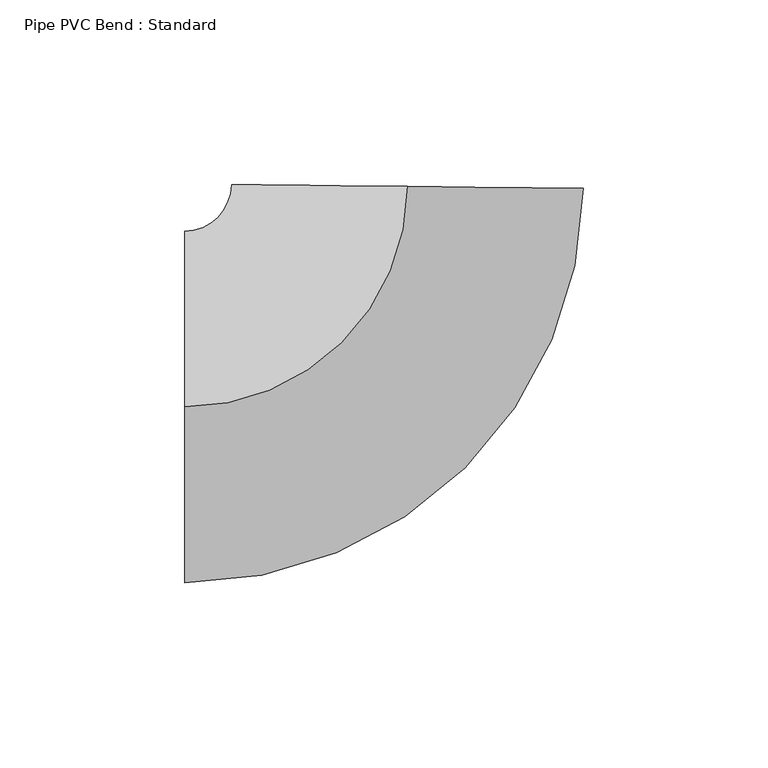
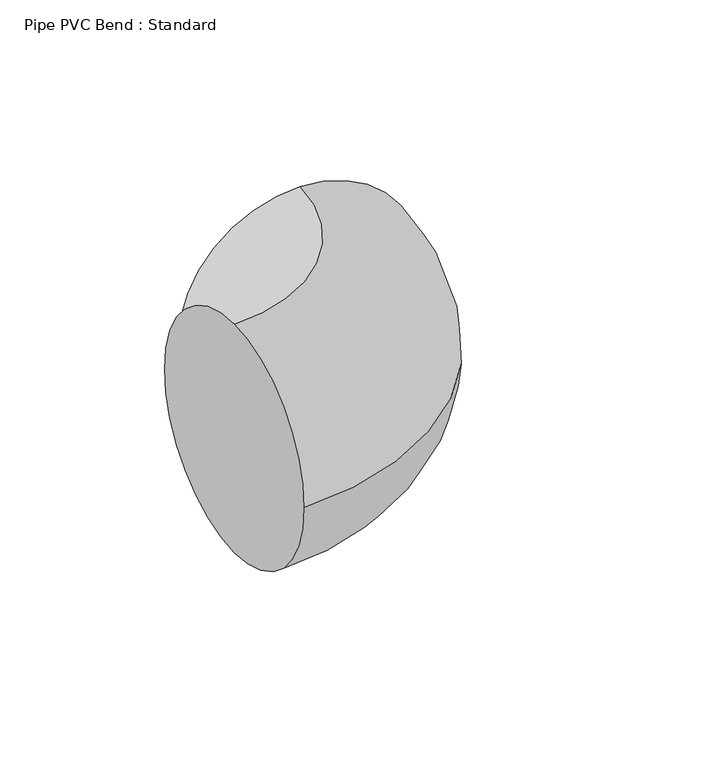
"""IFC4 building model written with IfcOpenShell, lengths in millimetres: pipe fitting geometry, Pipe PVC Bend : Standard."""

from ifc_helpers import new_model, si_unit, point, frame, origin, place, context, project, spatial, circle_curve, ellipse_curve, trimmed, source, transform, mapped, element, save
from ifc_brep_helpers import plane_surface, revolved_surface, advanced_brep


def pipe_pvc_bend_standard_a092cd9d(model_context):
    return source(origin(), model_context, "Body", "AdvancedBrep", [
        advanced_brep(
        [(-59.6998873, 0.0, 47.625), (-59.6998873, 47.625, 0.0), (-59.6998873, 0.0, -47.625), (-59.6998873, -47.625, 0.0), (0.6218401, 59.6966487, 47.625), (48.2442565, 59.2005818, 0.0), (0.6218401, 59.6966487, -47.625), (-47.0005763, 60.1927155, 0.0)],
        [
            (0, 1, circle_curve(frame((-59.6998873, 0.0, 0.0), z_axis=(-1.0, 0.0, 0.0), x_axis=(0.0, 1.0, 0.0)), 47.625)),
            (1, 2, circle_curve(frame((-59.6998873, 0.0, 0.0), z_axis=(-1.0, 0.0, 0.0), x_axis=(0.0, 1.0, 0.0)), 47.625)),
            (2, 3, circle_curve(frame((-59.6998873, 0.0, 0.0), z_axis=(-1.0, 0.0, 0.0), x_axis=(0.0, 1.0, 0.0)), 47.625)),
            (3, 0, circle_curve(frame((-59.6998873, 0.0, 0.0), z_axis=(-1.0, 0.0, 0.0), x_axis=(0.0, 1.0, 0.0)), 47.625)),
            (4, 5, circle_curve(frame((0.6218401, 59.6966487, 0.0), z_axis=(0.010416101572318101, 0.9999457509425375, 0.0), x_axis=(-0.9999457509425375, 0.010416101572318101, 0.0)), 47.625)),
            (5, 6, circle_curve(frame((0.6218401, 59.6966487, 0.0), z_axis=(0.010416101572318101, 0.9999457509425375, 0.0), x_axis=(-0.9999457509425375, 0.010416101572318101, 0.0)), 47.625)),
            (6, 7, circle_curve(frame((0.6218401, 59.6966487, 0.0), z_axis=(0.010416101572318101, 0.9999457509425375, 0.0), x_axis=(-0.9999457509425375, 0.010416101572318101, 0.0)), 47.625)),
            (7, 4, circle_curve(frame((0.6218401, 59.6966487, 0.0), z_axis=(0.010416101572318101, 0.9999457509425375, 0.0), x_axis=(-0.9999457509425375, 0.010416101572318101, 0.0)), 47.625)),
            (7, 1, circle_curve(frame((-59.6998873, 60.325, 0.0), z_axis=(0.0, 0.0, -1.0), x_axis=(0.0, -1.0, 0.0)), 12.7)),
            (0, 4, circle_curve(frame((-59.6998873, 60.325, 47.625), z_axis=(0.0, 0.0, 1.0), x_axis=(0.0, -1.0, 0.0)), 60.325)),
            (6, 2, circle_curve(frame((-59.6998873, 60.325, -47.625), z_axis=(0.0, 0.0, -1.0), x_axis=(0.0, -1.0, 0.0)), 60.325)),
            (5, 3, circle_curve(frame((-59.6998873, 60.325, 0.0), z_axis=(0.0, 0.0, -1.0), x_axis=(0.0, -1.0, 0.0)), 107.95)),
        ],
        [
            plane_surface(frame((-59.6998873, 0.0, 0.0), z_axis=(-1.0, 0.0, 0.0), x_axis=(0.0, 0.0, 1.0))),
            plane_surface(frame((0.6218401, 59.6966487, 0.0), z_axis=(0.010416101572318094, 0.9999457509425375, 0.0), x_axis=(0.0, 0.0, 1.0))),
            revolved_surface(trimmed(ellipse_curve(frame((-59.6998873, 0.0, 0.0), z_axis=(-1.0, 0.0, 0.0), x_axis=(0.0, 1.0, 0.0)), 47.625, 47.625), [point((-59.6998873, 0.0, 47.625))], [point((-59.6998873, 47.625, 0.0))], True, "CARTESIAN"), (-59.6998873, 60.325, 0.0), (0.0, 0.0, 1.0)),
            revolved_surface(trimmed(ellipse_curve(frame((-59.6998873, 0.0, 0.0), z_axis=(-1.0, 0.0, 0.0), x_axis=(0.0, 1.0, 0.0)), 47.625, 47.625), [point((-59.6998873, 47.625, 0.0))], [point((-59.6998873, 0.0, -47.625))], True, "CARTESIAN"), (-59.6998873, 60.325, 0.0), (0.0, 0.0, 1.0)),
            revolved_surface(trimmed(ellipse_curve(frame((-59.6998873, 0.0, 0.0), z_axis=(-1.0, 0.0, 0.0), x_axis=(0.0, 1.0, 0.0)), 47.625, 47.625), [point((-59.6998873, 0.0, -47.625))], [point((-59.6998873, -47.625, 0.0))], True, "CARTESIAN"), (-59.6998873, 60.325, 0.0), (0.0, 0.0, 1.0)),
            revolved_surface(trimmed(ellipse_curve(frame((-59.6998873, 0.0, 0.0), z_axis=(-1.0, 0.0, 0.0), x_axis=(0.0, 1.0, 0.0)), 47.625, 47.625), [point((-59.6998873, -47.625, 0.0))], [point((-59.6998873, 0.0, 47.625))], True, "CARTESIAN"), (-59.6998873, 60.325, 0.0), (0.0, 0.0, 1.0)),
        ],
        [
            (0, [[1, 2, 3, 4]]),
            (1, [[5, 6, 7, 8]]),
            (2, [[9, -1, 10, -8]]),
            (3, [[11, -2, -9, -7]]),
            (4, [[12, -3, -11, -6]]),
            (5, [[-10, -4, -12, -5]]),
        ],
    ),
        advanced_brep(
        [(-59.6998873, 0.0, 47.625), (-59.6998873, 47.625, 0.0), (-59.6998873, 0.0, -47.625), (-59.6998873, -47.625, 0.0), (0.6218401, 59.6966487, 47.625), (48.2442565, 59.2005818, 0.0), (0.6218401, 59.6966487, -47.625), (-47.0005763, 60.1927155, 0.0)],
        [
            (0, 1, circle_curve(frame((-59.6998873, 0.0, 0.0), z_axis=(-1.0, 0.0, 0.0), x_axis=(0.0, 1.0, 0.0)), 47.625)),
            (1, 2, circle_curve(frame((-59.6998873, 0.0, 0.0), z_axis=(-1.0, 0.0, 0.0), x_axis=(0.0, 1.0, 0.0)), 47.625)),
            (2, 3, circle_curve(frame((-59.6998873, 0.0, 0.0), z_axis=(-1.0, 0.0, 0.0), x_axis=(0.0, 1.0, 0.0)), 47.625)),
            (3, 0, circle_curve(frame((-59.6998873, 0.0, 0.0), z_axis=(-1.0, 0.0, 0.0), x_axis=(0.0, 1.0, 0.0)), 47.625)),
            (4, 5, circle_curve(frame((0.6218401, 59.6966487, 0.0), z_axis=(0.010416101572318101, 0.9999457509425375, 0.0), x_axis=(-0.9999457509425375, 0.010416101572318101, 0.0)), 47.625)),
            (5, 6, circle_curve(frame((0.6218401, 59.6966487, 0.0), z_axis=(0.010416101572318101, 0.9999457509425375, 0.0), x_axis=(-0.9999457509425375, 0.010416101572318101, 0.0)), 47.625)),
            (6, 7, circle_curve(frame((0.6218401, 59.6966487, 0.0), z_axis=(0.010416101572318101, 0.9999457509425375, 0.0), x_axis=(-0.9999457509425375, 0.010416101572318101, 0.0)), 47.625)),
            (7, 4, circle_curve(frame((0.6218401, 59.6966487, 0.0), z_axis=(0.010416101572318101, 0.9999457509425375, 0.0), x_axis=(-0.9999457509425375, 0.010416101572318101, 0.0)), 47.625)),
            (7, 1, circle_curve(frame((-59.6998873, 60.325, 0.0), z_axis=(0.0, 0.0, -1.0), x_axis=(0.0, -1.0, 0.0)), 12.7)),
            (0, 4, circle_curve(frame((-59.6998873, 60.325, 47.625), z_axis=(0.0, 0.0, 1.0), x_axis=(0.0, -1.0, 0.0)), 60.325)),
            (6, 2, circle_curve(frame((-59.6998873, 60.325, -47.625), z_axis=(0.0, 0.0, -1.0), x_axis=(0.0, -1.0, 0.0)), 60.325)),
            (5, 3, circle_curve(frame((-59.6998873, 60.325, 0.0), z_axis=(0.0, 0.0, -1.0), x_axis=(0.0, -1.0, 0.0)), 107.95)),
        ],
        [
            plane_surface(frame((-59.6998873, 0.0, 0.0), z_axis=(-1.0, 0.0, 0.0), x_axis=(0.0, 0.0, 1.0))),
            plane_surface(frame((0.6218401, 59.6966487, 0.0), z_axis=(0.010416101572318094, 0.9999457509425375, 0.0), x_axis=(0.0, 0.0, 1.0))),
            revolved_surface(trimmed(ellipse_curve(frame((-59.6998873, 0.0, 0.0), z_axis=(-1.0, 0.0, 0.0), x_axis=(0.0, 1.0, 0.0)), 47.625, 47.625), [point((-59.6998873, 0.0, 47.625))], [point((-59.6998873, 47.625, 0.0))], True, "CARTESIAN"), (-59.6998873, 60.325, 0.0), (0.0, 0.0, 1.0)),
            revolved_surface(trimmed(ellipse_curve(frame((-59.6998873, 0.0, 0.0), z_axis=(-1.0, 0.0, 0.0), x_axis=(0.0, 1.0, 0.0)), 47.625, 47.625), [point((-59.6998873, 47.625, 0.0))], [point((-59.6998873, 0.0, -47.625))], True, "CARTESIAN"), (-59.6998873, 60.325, 0.0), (0.0, 0.0, 1.0)),
            revolved_surface(trimmed(ellipse_curve(frame((-59.6998873, 0.0, 0.0), z_axis=(-1.0, 0.0, 0.0), x_axis=(0.0, 1.0, 0.0)), 47.625, 47.625), [point((-59.6998873, 0.0, -47.625))], [point((-59.6998873, -47.625, 0.0))], True, "CARTESIAN"), (-59.6998873, 60.325, 0.0), (0.0, 0.0, 1.0)),
            revolved_surface(trimmed(ellipse_curve(frame((-59.6998873, 0.0, 0.0), z_axis=(-1.0, 0.0, 0.0), x_axis=(0.0, 1.0, 0.0)), 47.625, 47.625), [point((-59.6998873, -47.625, 0.0))], [point((-59.6998873, 0.0, 47.625))], True, "CARTESIAN"), (-59.6998873, 60.325, 0.0), (0.0, 0.0, 1.0)),
        ],
        [
            (0, [[1, 2, 3, 4]]),
            (1, [[5, 6, 7, 8]]),
            (2, [[9, -1, 10, -8]]),
            (3, [[11, -2, -9, -7]]),
            (4, [[12, -3, -11, -6]]),
            (5, [[-10, -4, -12, -5]]),
        ],
    ),
    ])


if __name__ == "__main__":
    model = new_model("IFC4")
    model_context = context("Model", 3, world=origin())
    ifc_project = project(units=[si_unit("LENGTHUNIT", "METRE", prefix="MILLI")], contexts=[model_context])
    site = spatial("IfcSite", under=ifc_project)
    building = spatial("IfcBuilding", under=site)
    placement = place(None, origin())
    pipe_pvc_bend_standard_shape = pipe_pvc_bend_standard_a092cd9d(model_context)
    element("IfcPipeFitting", 1, ObjectType="Pipe PVC Bend : Standard", at=placement, inside=building, context=model_context, shape_type="MappedRepresentation", body=[
        mapped(pipe_pvc_bend_standard_shape, transform((0.0, 0.0, 0.0), x_axis=(1.0, 0.0, 0.0), y_axis=(0.0, 1.0, 0.0), z_axis=(0.0, 0.0, 1.0))),
    ])
    save(model, "model.ifc")
